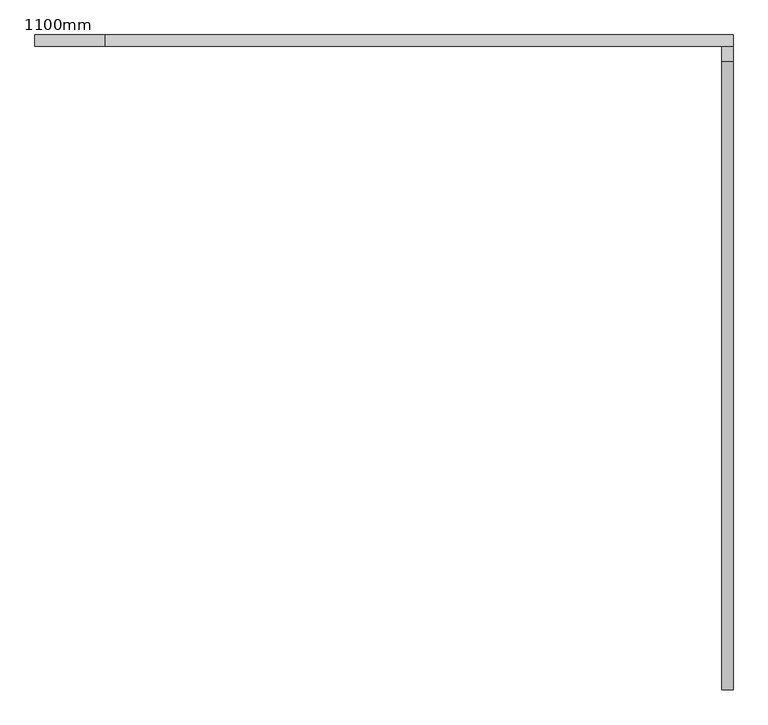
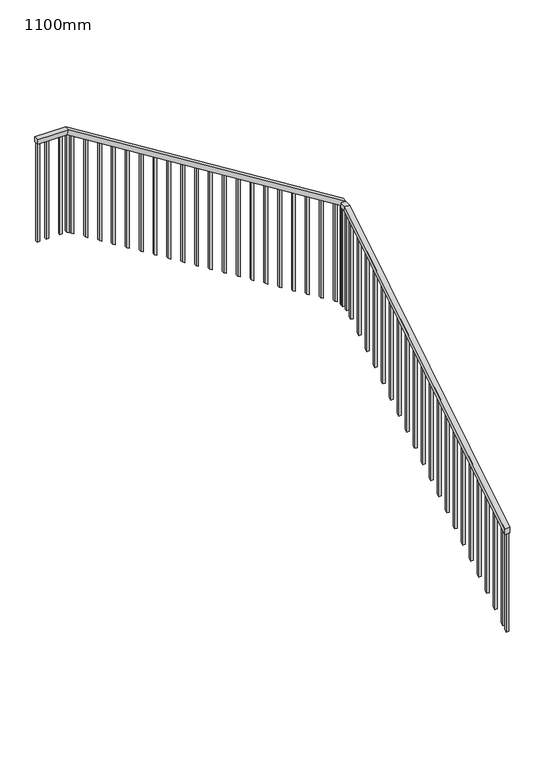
"""IFC4 building model written with IfcOpenShell, lengths in millimetres: railing geometry, 1100mm."""

from ifc_helpers import new_model, si_unit, frame, origin, place, context, project, spatial, polyline, outline, extrude, faceted_brep, source, transform, mapped, element, save


def railing_1100mm_f1d3f54a(model_context):
    return source(origin(), model_context, "Body", "SolidModel", [
        faceted_brep([(-1103.0563072, 1098.3390027, 46994.1714286), (-1103.0563072, 1098.3390027, 46935.2520257), (-1053.0563072, 1098.3390027, 46935.2520257), (-1053.0563072, 1098.3390027, 46994.1714286), (-1103.0563072, 3892.3390027, 48735.8857143), (-1103.0563072, 3906.6472115, 48685.8857143), (-1053.0563072, 3906.6472115, 48685.8857143), (-1053.0563072, 3892.3390027, 48735.8857143), (-1103.0563072, 3961.2251138, 48735.8857143), (-1053.0563072, 3961.2251138, 48735.8857143), (-1053.0563072, 3961.2251138, 48685.8857143), (-1103.0563072, 3961.2251138, 48685.8857143)], [[[0, 1, 2, 3]], [[1, 0, 4, 5]], [[2, 1, 5, 6]], [[3, 2, 6, 7]], [[0, 3, 7, 4]], [[8, 9, 10, 11]], [[5, 4, 8, 11]], [[6, 5, 11, 10]], [[7, 6, 10, 9]], [[4, 7, 9, 8]]]),
        faceted_brep([(-1053.0563072, 3961.2251138, 48735.8857143), (-1053.0563072, 3961.2251138, 48676.9663114), (-1053.0563072, 4011.2251138, 48676.9663114), (-1053.0563072, 4011.2251138, 48735.8857143), (-3847.0563072, 3961.2251138, 50477.6), (-3861.364516, 3961.2251138, 50427.6), (-3861.364516, 4011.2251138, 50427.6), (-3847.0563072, 4011.2251138, 50477.6), (-4160.280408, 3961.2251138, 50477.6), (-4160.280408, 4011.2251138, 50477.6), (-4160.280408, 4011.2251138, 50427.6), (-4160.280408, 3961.2251138, 50427.6)], [[[0, 1, 2, 3]], [[1, 0, 4, 5]], [[2, 1, 5, 6]], [[3, 2, 6, 7]], [[0, 3, 7, 4]], [[8, 9, 10, 11]], [[5, 4, 8, 11]], [[6, 5, 11, 10]], [[7, 6, 10, 9]], [[4, 7, 9, 8]]]),
        extrude(outline(polyline([(-4044.1063072, 3973.7251138), (-4069.1063072, 3973.7251138), (-4069.1063072, 3998.7251138), (-4044.1063072, 3998.7251138), (-4044.1063072, 3973.7251138)])), frame((0.0, 0.0, 49377.6), z_axis=(0.0, 0.0, 1.0), x_axis=(1.0, 0.0, 0.0)), (0.0, 0.0, 1.0), 1050.0),
        extrude(outline(polyline([(-3904.4063072, 3973.7251138), (-3929.4063072, 3973.7251138), (-3929.4063072, 3998.7251138), (-3904.4063072, 3998.7251138), (-3904.4063072, 3973.7251138)])), frame((0.0, 0.0, 49377.6), z_axis=(0.0, 0.0, 1.0), x_axis=(1.0, 0.0, 0.0)), (0.0, 0.0, 1.0), 1050.0),
        extrude(outline(polyline([(50382.9299478, -3789.7063072), (50398.5143633, -3814.7063072), (49352.1185832, -3814.7063072), (49336.5341676, -3789.7063072), (50382.9299478, -3789.7063072)])), frame((0.0, 3973.7251138, 0.0), z_axis=(0.0, 1.0, 0.0), x_axis=(0.0, 0.0, 1.0)), (0.0, 0.0, 1.0), 25.0),
        extrude(outline(polyline([(50295.8442335, -3650.0063072), (50311.4286491, -3675.0063072), (49265.0328689, -3675.0063072), (49249.4484533, -3650.0063072), (50295.8442335, -3650.0063072)])), frame((0.0, 3973.7251138, 0.0), z_axis=(0.0, 1.0, 0.0), x_axis=(0.0, 0.0, 1.0)), (0.0, 0.0, 1.0), 25.0),
        extrude(outline(polyline([(50208.7585192, -3510.3063072), (50224.3429348, -3535.3063072), (49177.9471546, -3535.3063072), (49162.362739, -3510.3063072), (50208.7585192, -3510.3063072)])), frame((0.0, 3973.7251138, 0.0), z_axis=(0.0, 1.0, 0.0), x_axis=(0.0, 0.0, 1.0)), (0.0, 0.0, 1.0), 25.0),
        extrude(outline(polyline([(50121.6728049, -3370.6063072), (50137.2572205, -3395.6063072), (49090.8614403, -3395.6063072), (49075.2770248, -3370.6063072), (50121.6728049, -3370.6063072)])), frame((0.0, 3973.7251138, 0.0), z_axis=(0.0, 1.0, 0.0), x_axis=(0.0, 0.0, 1.0)), (0.0, 0.0, 1.0), 25.0),
        extrude(outline(polyline([(50034.5870906, -3230.9063072), (50050.1715062, -3255.9063072), (49003.7757261, -3255.9063072), (48988.1913105, -3230.9063072), (50034.5870906, -3230.9063072)])), frame((0.0, 3973.7251138, 0.0), z_axis=(0.0, 1.0, 0.0), x_axis=(0.0, 0.0, 1.0)), (0.0, 0.0, 1.0), 25.0),
        extrude(outline(polyline([(49947.5013763, -3091.2063072), (49963.0857919, -3116.2063072), (48916.6900118, -3116.2063072), (48901.1055962, -3091.2063072), (49947.5013763, -3091.2063072)])), frame((0.0, 3973.7251138, 0.0), z_axis=(0.0, 1.0, 0.0), x_axis=(0.0, 0.0, 1.0)), (0.0, 0.0, 1.0), 25.0),
        extrude(outline(polyline([(49860.415662, -2951.5063072), (49876.0000776, -2976.5063072), (48829.6042975, -2976.5063072), (48814.0198819, -2951.5063072), (49860.415662, -2951.5063072)])), frame((0.0, 3973.7251138, 0.0), z_axis=(0.0, 1.0, 0.0), x_axis=(0.0, 0.0, 1.0)), (0.0, 0.0, 1.0), 25.0),
        extrude(outline(polyline([(49773.3299478, -2811.8063072), (49788.9143633, -2836.8063072), (48742.5185832, -2836.8063072), (48726.9341676, -2811.8063072), (49773.3299478, -2811.8063072)])), frame((0.0, 3973.7251138, 0.0), z_axis=(0.0, 1.0, 0.0), x_axis=(0.0, 0.0, 1.0)), (0.0, 0.0, 1.0), 25.0),
        extrude(outline(polyline([(49686.2442335, -2672.1063072), (49701.8286491, -2697.1063072), (48655.4328689, -2697.1063072), (48639.8484533, -2672.1063072), (49686.2442335, -2672.1063072)])), frame((0.0, 3973.7251138, 0.0), z_axis=(0.0, 1.0, 0.0), x_axis=(0.0, 0.0, 1.0)), (0.0, 0.0, 1.0), 25.0),
        extrude(outline(polyline([(49599.1585192, -2532.4063072), (49614.7429348, -2557.4063072), (48568.3471546, -2557.4063072), (48552.762739, -2532.4063072), (49599.1585192, -2532.4063072)])), frame((0.0, 3973.7251138, 0.0), z_axis=(0.0, 1.0, 0.0), x_axis=(0.0, 0.0, 1.0)), (0.0, 0.0, 1.0), 25.0),
        extrude(outline(polyline([(49512.0728049, -2392.7063072), (49527.6572205, -2417.7063072), (48481.2614403, -2417.7063072), (48465.6770248, -2392.7063072), (49512.0728049, -2392.7063072)])), frame((0.0, 3973.7251138, 0.0), z_axis=(0.0, 1.0, 0.0), x_axis=(0.0, 0.0, 1.0)), (0.0, 0.0, 1.0), 25.0),
        extrude(outline(polyline([(49424.9870906, -2253.0063072), (49440.5715062, -2278.0063072), (48394.1757261, -2278.0063072), (48378.5913105, -2253.0063072), (49424.9870906, -2253.0063072)])), frame((0.0, 3973.7251138, 0.0), z_axis=(0.0, 1.0, 0.0), x_axis=(0.0, 0.0, 1.0)), (0.0, 0.0, 1.0), 25.0),
        extrude(outline(polyline([(49337.9013763, -2113.3063072), (49353.4857919, -2138.3063072), (48307.0900118, -2138.3063072), (48291.5055962, -2113.3063072), (49337.9013763, -2113.3063072)])), frame((0.0, 3973.7251138, 0.0), z_axis=(0.0, 1.0, 0.0), x_axis=(0.0, 0.0, 1.0)), (0.0, 0.0, 1.0), 25.0),
        extrude(outline(polyline([(49250.815662, -1973.6063072), (49266.4000776, -1998.6063072), (48220.0042975, -1998.6063072), (48204.4198819, -1973.6063072), (49250.815662, -1973.6063072)])), frame((0.0, 3973.7251138, 0.0), z_axis=(0.0, 1.0, 0.0), x_axis=(0.0, 0.0, 1.0)), (0.0, 0.0, 1.0), 25.0),
        extrude(outline(polyline([(49163.7299478, -1833.9063072), (49179.3143633, -1858.9063072), (48132.9185832, -1858.9063072), (48117.3341676, -1833.9063072), (49163.7299478, -1833.9063072)])), frame((0.0, 3973.7251138, 0.0), z_axis=(0.0, 1.0, 0.0), x_axis=(0.0, 0.0, 1.0)), (0.0, 0.0, 1.0), 25.0),
        extrude(outline(polyline([(49076.6442335, -1694.2063072), (49092.2286491, -1719.2063072), (48045.8328689, -1719.2063072), (48030.2484533, -1694.2063072), (49076.6442335, -1694.2063072)])), frame((0.0, 3973.7251138, 0.0), z_axis=(0.0, 1.0, 0.0), x_axis=(0.0, 0.0, 1.0)), (0.0, 0.0, 1.0), 25.0),
        extrude(outline(polyline([(48989.5585192, -1554.5063072), (49005.1429348, -1579.5063072), (47958.7471546, -1579.5063072), (47943.162739, -1554.5063072), (48989.5585192, -1554.5063072)])), frame((0.0, 3973.7251138, 0.0), z_axis=(0.0, 1.0, 0.0), x_axis=(0.0, 0.0, 1.0)), (0.0, 0.0, 1.0), 25.0),
        extrude(outline(polyline([(48902.4728049, -1414.8063072), (48918.0572205, -1439.8063072), (47871.6614403, -1439.8063072), (47856.0770248, -1414.8063072), (48902.4728049, -1414.8063072)])), frame((0.0, 3973.7251138, 0.0), z_axis=(0.0, 1.0, 0.0), x_axis=(0.0, 0.0, 1.0)), (0.0, 0.0, 1.0), 25.0),
        extrude(outline(polyline([(48815.3870906, -1275.1063072), (48830.9715062, -1300.1063072), (47784.5757261, -1300.1063072), (47768.9913105, -1275.1063072), (48815.3870906, -1275.1063072)])), frame((0.0, 3973.7251138, 0.0), z_axis=(0.0, 1.0, 0.0), x_axis=(0.0, 0.0, 1.0)), (0.0, 0.0, 1.0), 25.0),
        extrude(outline(polyline([(48728.3013763, -1135.4063072), (48743.8857919, -1160.4063072), (47697.4900118, -1160.4063072), (47681.9055962, -1135.4063072), (48728.3013763, -1135.4063072)])), frame((0.0, 3973.7251138, 0.0), z_axis=(0.0, 1.0, 0.0), x_axis=(0.0, 0.0, 1.0)), (0.0, 0.0, 1.0), 25.0),
        extrude(outline(polyline([(-1090.5563072, 3949.6890027), (-1090.5563072, 3974.6890027), (-1065.5563072, 3974.6890027), (-1065.5563072, 3949.6890027), (-1090.5563072, 3949.6890027)])), frame((0.0, 0.0, 47630.5705313), z_axis=(0.0, 0.0, 1.0), x_axis=(1.0, 0.0, 0.0)), (0.0, 0.0, 1.0), 1055.315183),
        extrude(outline(polyline([(3809.9890027, 48625.6312465), (3834.9890027, 48641.215662), (3834.9890027, 47594.8198819), (3809.9890027, 47579.2354663), (3809.9890027, 48625.6312465)])), frame((-1090.5563072, 0.0, 0.0), z_axis=(1.0, 0.0, 0.0), x_axis=(0.0, 1.0, 0.0)), (0.0, 0.0, 1.0), 25.0),
        extrude(outline(polyline([(3670.2890027, 48538.5455322), (3695.2890027, 48554.1299478), (3695.2890027, 47507.7341676), (3670.2890027, 47492.149752), (3670.2890027, 48538.5455322)])), frame((-1090.5563072, 0.0, 0.0), z_axis=(1.0, 0.0, 0.0), x_axis=(0.0, 1.0, 0.0)), (0.0, 0.0, 1.0), 25.0),
        extrude(outline(polyline([(3530.5890027, 48451.4598179), (3555.5890027, 48467.0442335), (3555.5890027, 47420.6484533), (3530.5890027, 47405.0640377), (3530.5890027, 48451.4598179)])), frame((-1090.5563072, 0.0, 0.0), z_axis=(1.0, 0.0, 0.0), x_axis=(0.0, 1.0, 0.0)), (0.0, 0.0, 1.0), 25.0),
        extrude(outline(polyline([(3390.8890027, 48364.3741036), (3415.8890027, 48379.9585192), (3415.8890027, 47333.562739), (3390.8890027, 47317.9783235), (3390.8890027, 48364.3741036)])), frame((-1090.5563072, 0.0, 0.0), z_axis=(1.0, 0.0, 0.0), x_axis=(0.0, 1.0, 0.0)), (0.0, 0.0, 1.0), 25.0),
        extrude(outline(polyline([(3251.1890027, 48277.2883893), (3276.1890027, 48292.8728049), (3276.1890027, 47246.4770248), (3251.1890027, 47230.8926092), (3251.1890027, 48277.2883893)])), frame((-1090.5563072, 0.0, 0.0), z_axis=(1.0, 0.0, 0.0), x_axis=(0.0, 1.0, 0.0)), (0.0, 0.0, 1.0), 25.0),
        extrude(outline(polyline([(3111.4890027, 48190.202675), (3136.4890027, 48205.7870906), (3136.4890027, 47159.3913105), (3111.4890027, 47143.8068949), (3111.4890027, 48190.202675)])), frame((-1090.5563072, 0.0, 0.0), z_axis=(1.0, 0.0, 0.0), x_axis=(0.0, 1.0, 0.0)), (0.0, 0.0, 1.0), 25.0),
        extrude(outline(polyline([(2971.7890027, 48103.1169608), (2996.7890027, 48118.7013763), (2996.7890027, 47072.3055962), (2971.7890027, 47056.7211806), (2971.7890027, 48103.1169608)])), frame((-1090.5563072, 0.0, 0.0), z_axis=(1.0, 0.0, 0.0), x_axis=(0.0, 1.0, 0.0)), (0.0, 0.0, 1.0), 25.0),
        extrude(outline(polyline([(2832.0890027, 48016.0312465), (2857.0890027, 48031.615662), (2857.0890027, 46985.2198819), (2832.0890027, 46969.6354663), (2832.0890027, 48016.0312465)])), frame((-1090.5563072, 0.0, 0.0), z_axis=(1.0, 0.0, 0.0), x_axis=(0.0, 1.0, 0.0)), (0.0, 0.0, 1.0), 25.0),
        extrude(outline(polyline([(2692.3890027, 47928.9455322), (2717.3890027, 47944.5299478), (2717.3890027, 46898.1341676), (2692.3890027, 46882.549752), (2692.3890027, 47928.9455322)])), frame((-1090.5563072, 0.0, 0.0), z_axis=(1.0, 0.0, 0.0), x_axis=(0.0, 1.0, 0.0)), (0.0, 0.0, 1.0), 25.0),
        extrude(outline(polyline([(2552.6890027, 47841.8598179), (2577.6890027, 47857.4442335), (2577.6890027, 46811.0484533), (2552.6890027, 46795.4640377), (2552.6890027, 47841.8598179)])), frame((-1090.5563072, 0.0, 0.0), z_axis=(1.0, 0.0, 0.0), x_axis=(0.0, 1.0, 0.0)), (0.0, 0.0, 1.0), 25.0),
        extrude(outline(polyline([(2412.9890027, 47754.7741036), (2437.9890027, 47770.3585192), (2437.9890027, 46723.962739), (2412.9890027, 46708.3783235), (2412.9890027, 47754.7741036)])), frame((-1090.5563072, 0.0, 0.0), z_axis=(1.0, 0.0, 0.0), x_axis=(0.0, 1.0, 0.0)), (0.0, 0.0, 1.0), 25.0),
        extrude(outline(polyline([(2273.2890027, 47667.6883893), (2298.2890027, 47683.2728049), (2298.2890027, 46636.8770248), (2273.2890027, 46621.2926092), (2273.2890027, 47667.6883893)])), frame((-1090.5563072, 0.0, 0.0), z_axis=(1.0, 0.0, 0.0), x_axis=(0.0, 1.0, 0.0)), (0.0, 0.0, 1.0), 25.0),
        extrude(outline(polyline([(2133.5890027, 47580.602675), (2158.5890027, 47596.1870906), (2158.5890027, 46549.7913105), (2133.5890027, 46534.2068949), (2133.5890027, 47580.602675)])), frame((-1090.5563072, 0.0, 0.0), z_axis=(1.0, 0.0, 0.0), x_axis=(0.0, 1.0, 0.0)), (0.0, 0.0, 1.0), 25.0),
        extrude(outline(polyline([(1993.8890027, 47493.5169608), (2018.8890027, 47509.1013763), (2018.8890027, 46462.7055962), (1993.8890027, 46447.1211806), (1993.8890027, 47493.5169608)])), frame((-1090.5563072, 0.0, 0.0), z_axis=(1.0, 0.0, 0.0), x_axis=(0.0, 1.0, 0.0)), (0.0, 0.0, 1.0), 25.0),
        extrude(outline(polyline([(1854.1890027, 47406.4312465), (1879.1890027, 47422.015662), (1879.1890027, 46375.6198819), (1854.1890027, 46360.0354663), (1854.1890027, 47406.4312465)])), frame((-1090.5563072, 0.0, 0.0), z_axis=(1.0, 0.0, 0.0), x_axis=(0.0, 1.0, 0.0)), (0.0, 0.0, 1.0), 25.0),
        extrude(outline(polyline([(1714.4890027, 47319.3455322), (1739.4890027, 47334.9299478), (1739.4890027, 46288.5341676), (1714.4890027, 46272.949752), (1714.4890027, 47319.3455322)])), frame((-1090.5563072, 0.0, 0.0), z_axis=(1.0, 0.0, 0.0), x_axis=(0.0, 1.0, 0.0)), (0.0, 0.0, 1.0), 25.0),
        extrude(outline(polyline([(1574.7890027, 47232.2598179), (1599.7890027, 47247.8442335), (1599.7890027, 46201.4484533), (1574.7890027, 46185.8640377), (1574.7890027, 47232.2598179)])), frame((-1090.5563072, 0.0, 0.0), z_axis=(1.0, 0.0, 0.0), x_axis=(0.0, 1.0, 0.0)), (0.0, 0.0, 1.0), 25.0),
        extrude(outline(polyline([(1435.0890027, 47145.1741036), (1460.0890027, 47160.7585192), (1460.0890027, 46114.362739), (1435.0890027, 46098.7783235), (1435.0890027, 47145.1741036)])), frame((-1090.5563072, 0.0, 0.0), z_axis=(1.0, 0.0, 0.0), x_axis=(0.0, 1.0, 0.0)), (0.0, 0.0, 1.0), 25.0),
        extrude(outline(polyline([(1295.3890027, 47058.0883893), (1320.3890027, 47073.6728049), (1320.3890027, 46027.2770248), (1295.3890027, 46011.6926092), (1295.3890027, 47058.0883893)])), frame((-1090.5563072, 0.0, 0.0), z_axis=(1.0, 0.0, 0.0), x_axis=(0.0, 1.0, 0.0)), (0.0, 0.0, 1.0), 25.0),
        extrude(outline(polyline([(1155.6890027, 46971.002675), (1180.6890027, 46986.5870906), (1180.6890027, 45940.1913105), (1155.6890027, 45924.6068949), (1155.6890027, 46971.002675)])), frame((-1090.5563072, 0.0, 0.0), z_axis=(1.0, 0.0, 0.0), x_axis=(0.0, 1.0, 0.0)), (0.0, 0.0, 1.0), 25.0),
        extrude(outline(polyline([(50410.8883893, -3834.5563072), (50426.4728049, -3859.5563072), (49380.0770248, -3859.5563072), (49364.4926092, -3834.5563072), (50410.8883893, -3834.5563072)])), frame((0.0, 3973.7251138, 0.0), z_axis=(0.0, 1.0, 0.0), x_axis=(0.0, 0.0, 1.0)), (0.0, 0.0, 1.0), 25.0),
        extrude(outline(polyline([(48684.7585192, -1065.5563072), (48700.3429348, -1090.5563072), (47630.5705313, -1090.5563072), (47630.5705313, -1065.5563072), (48684.7585192, -1065.5563072)])), frame((0.0, 3973.7251138, 0.0), z_axis=(0.0, 1.0, 0.0), x_axis=(0.0, 0.0, 1.0)), (0.0, 0.0, 1.0), 25.0),
        extrude(outline(polyline([(3879.8390027, 48669.1741036), (3904.8390027, 48684.7585192), (3904.8390027, 47630.5705313), (3879.8390027, 47630.5705313), (3879.8390027, 48669.1741036)])), frame((-1090.5563072, 0.0, 0.0), z_axis=(1.0, 0.0, 0.0), x_axis=(0.0, 1.0, 0.0)), (0.0, 0.0, 1.0), 25.0),
        extrude(outline(polyline([(-4135.280408, 3973.7251138), (-4160.280408, 3973.7251138), (-4160.280408, 3998.7251138), (-4135.280408, 3998.7251138), (-4135.280408, 3973.7251138)])), frame((0.0, 0.0, 49377.6), z_axis=(0.0, 0.0, 1.0), x_axis=(1.0, 0.0, 0.0)), (0.0, 0.0, 1.0), 1050.0),
        extrude(outline(polyline([(1098.3390027, 46935.2520257), (1123.3390027, 46950.8364413), (1123.3390027, 45904.4406611), (1098.3390027, 45888.8562455), (1098.3390027, 46935.2520257)])), frame((-1090.5563072, 0.0, 0.0), z_axis=(1.0, 0.0, 0.0), x_axis=(0.0, 1.0, 0.0)), (0.0, 0.0, 1.0), 25.0),
    ])


if __name__ == "__main__":
    model = new_model("IFC4")
    model_context = context("Model", 3, world=origin())
    ifc_project = project(units=[si_unit("LENGTHUNIT", "METRE", prefix="MILLI")], contexts=[model_context])
    site = spatial("IfcSite", under=ifc_project)
    building = spatial("IfcBuilding", under=site)
    placement = place(None, origin())
    railing_1100mm_shape = railing_1100mm_f1d3f54a(model_context)
    element("IfcRailing", 1, ObjectType="1100mm", at=placement, inside=building, context=model_context, shape_type="MappedRepresentation", body=[
        mapped(railing_1100mm_shape, transform((0.0, 0.0, 0.0), x_axis=(1.0, 0.0, 0.0), y_axis=(0.0, 1.0, 0.0), z_axis=(0.0, 0.0, 1.0))),
    ])
    save(model, "model.ifc")
